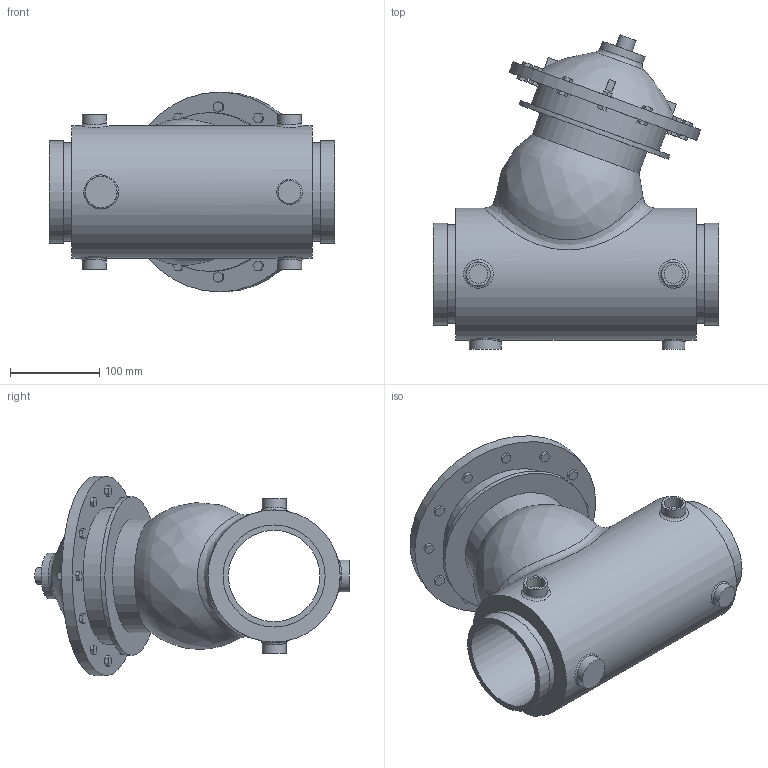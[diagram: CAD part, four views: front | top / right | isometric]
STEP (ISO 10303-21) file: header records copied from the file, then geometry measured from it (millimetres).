
FILE_DESCRIPTION(/* description */ ('VIC FP VALVE PRESSURE RELIEF SERIES 867-7UF (OGS)','CAx-IF Rec.Pracs.---Representation and Presentation of Product Manufacturing Information (PMI)---4.0---2014-10-13'),/* implementation_level */ '2;1');
FILE_NAME(/* name */ 'C:\Series 867-7UF\New folder (2)\step\Victaulic_FP-Bermad_Valve Pressure Relief_Series 867-7UF (OGS)\Victaulic_FP-Bermad_Valve Pressure Relief_Series 867-7UF (OGS)_4 (100).stp',/* time_stamp */ '2021-09-02T12:11:10+06:00',/* author */ ('kkamble'),/* organization */ ('Victaulic'),/* preprocessor_version */ 'ST-DEVELOPER v17.2',/* originating_system */ 'Autodesk Inventor 2019',/* authorisation */ '');
FILE_SCHEMA (('AP242_MANAGED_MODEL_BASED_3D_ENGINEERING_MIM_LF { 1 0 10303 442 1 1 4 }'));
Length unit declared in the file: inch
Products named in the file (1): 867-7UF-04.0
Bounding box: 320.04 x 351.93 x 223.52 mm (x, y, z)
Volume: 5914116.7 mm3; surface area: 423460.8 mm2
Topology: 1 solids, 1 shells, 238 faces, 597 edges, 406 vertices
Faces by surface type: plane 206, cylinder 22, bspline 9, torus 1
Full cylindrical faces by diameter (mm): 19.05 x1, 21.336 x4, 25.4 x1, 26.873 x4, 35.56 x1, 50.8 x1, 102.26 x1, 110.084 x2, 114.3 x2, 127 x1, 147.828 x1, 152.4 x1, 177.8 x1, 223.52 x1
Entity records: 8551 total; most frequent: CARTESIAN_POINT 2426, ORIENTED_EDGE 1206, DIRECTION 1128, EDGE_CURVE 603, LINE 482, VECTOR 482, VERTEX_POINT 412, AXIS2_PLACEMENT_3D 323
